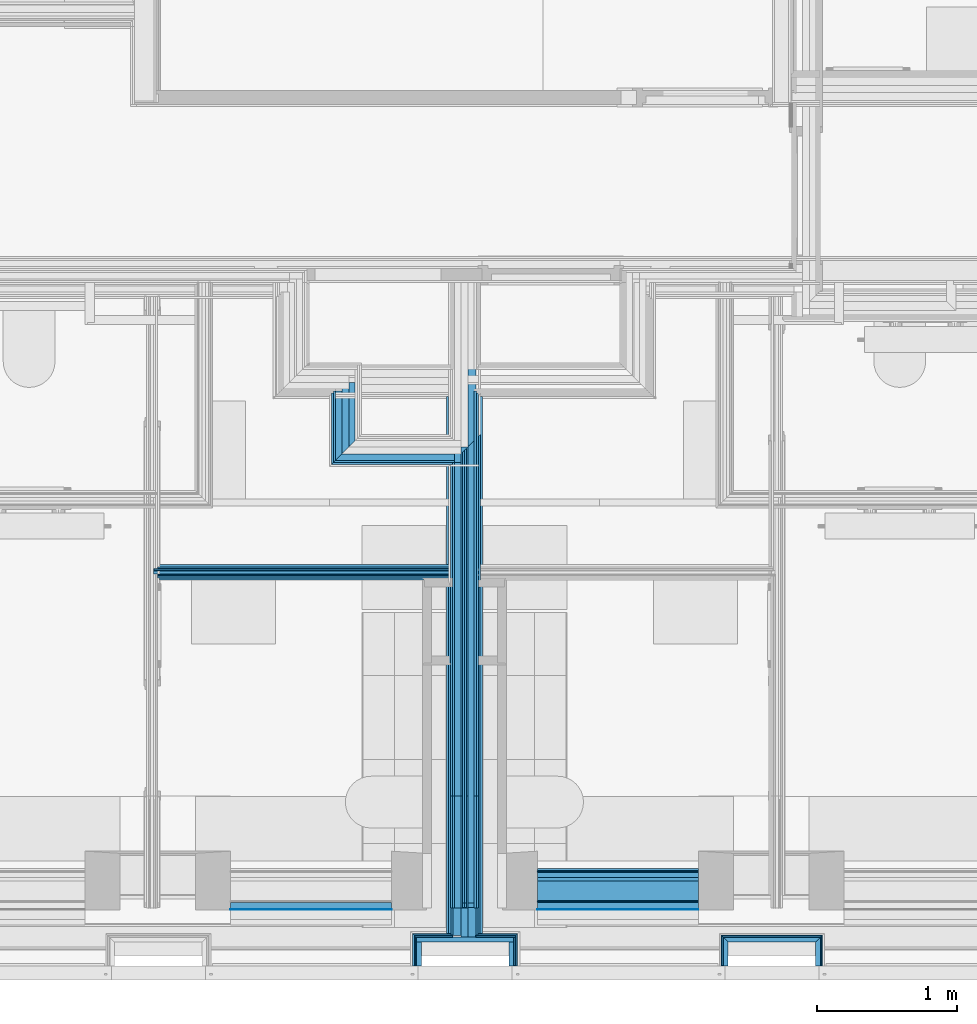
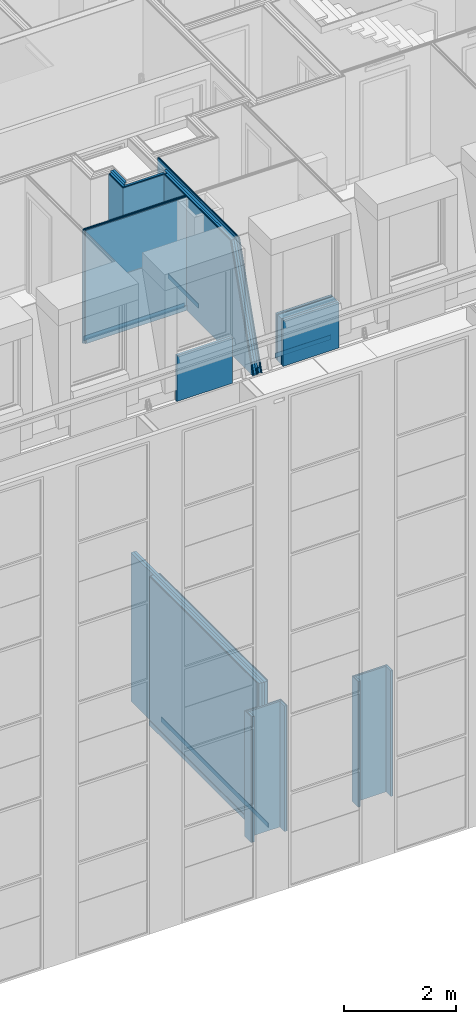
# One storey, part 20 of 169: 61 building element parts, 13 elements without a shape of their own.
"""IFC2X3 building model written with IfcOpenShell, lengths in metres."""

from ifc_helpers import new_model, entity, si_unit, converted_unit, derived_unit, money_unit, direction, frame, frame_2d, origin_with_axes, place, context, subcontext, project, spatial, polyline, rectangle, outline, extrude, clip, halfspace, material, type_object, element, aggregate, save


model = new_model("IFC2X3")

# Units and contexts
model_context = context("Model", 3, precision=1e-05, world=origin_with_axes(), true_north=direction((0.0, 1.0)))
body_context = subcontext(model_context, "Body", "Model", "MODEL_VIEW", scale=1.0)
ifc_project = project(units=[si_unit("LENGTHUNIT", "METRE"), si_unit("AREAUNIT", "SQUARE_METRE"), si_unit("VOLUMEUNIT", "CUBIC_METRE"), si_unit("ABSORBEDDOSEUNIT", "GRAY"), si_unit("AMOUNTOFSUBSTANCEUNIT", "MOLE"), si_unit("DOSEEQUIVALENTUNIT", "SIEVERT"), si_unit("ELECTRICCAPACITANCEUNIT", "FARAD"), si_unit("ELECTRICCHARGEUNIT", "COULOMB"), si_unit("ELECTRICCONDUCTANCEUNIT", "SIEMENS"), si_unit("ELECTRICCURRENTUNIT", "AMPERE"), si_unit("ELECTRICRESISTANCEUNIT", "OHM"), si_unit("ELECTRICVOLTAGEUNIT", "VOLT"), si_unit("ENERGYUNIT", "JOULE"), si_unit("FORCEUNIT", "NEWTON"), si_unit("FREQUENCYUNIT", "HERTZ"), si_unit("ILLUMINANCEUNIT", "LUX"), si_unit("INDUCTANCEUNIT", "HENRY"), si_unit("LUMINOUSFLUXUNIT", "LUMEN"), si_unit("LUMINOUSINTENSITYUNIT", "CANDELA"), si_unit("MAGNETICFLUXDENSITYUNIT", "TESLA"), si_unit("MAGNETICFLUXUNIT", "WEBER"), si_unit("MASSUNIT", "GRAM"), converted_unit("PLANEANGLEUNIT", "degree", entity("IfcReal", 0.0174532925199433), si_unit("PLANEANGLEUNIT", "RADIAN"), dimensions=[0, 0, 0, 0, 0, 0, 0]), si_unit("POWERUNIT", "WATT"), si_unit("PRESSUREUNIT", "PASCAL"), si_unit("RADIOACTIVITYUNIT", "BECQUEREL"), si_unit("SOLIDANGLEUNIT", "STERADIAN"), si_unit("THERMODYNAMICTEMPERATUREUNIT", "KELVIN"), si_unit("TIMEUNIT", "SECOND"), derived_unit("ACCELERATIONUNIT", [(si_unit("LENGTHUNIT", "METRE"), 1), (si_unit("TIMEUNIT", "SECOND"), -2)]), derived_unit("ANGULARVELOCITYUNIT", [(converted_unit("PLANEANGLEUNIT", "degree", entity("IfcReal", 0.0174532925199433), si_unit("PLANEANGLEUNIT", "RADIAN"), dimensions=[0, 0, 0, 0, 0, 0, 0]), 1), (si_unit("TIMEUNIT", "SECOND"), -1)]), derived_unit("CURVATUREUNIT", [(converted_unit("PLANEANGLEUNIT", "degree", entity("IfcReal", 0.0174532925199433), si_unit("PLANEANGLEUNIT", "RADIAN"), dimensions=[0, 0, 0, 0, 0, 0, 0]), 1), (si_unit("LENGTHUNIT", "METRE"), -1)]), derived_unit("DYNAMICVISCOSITYUNIT", [(si_unit("PRESSUREUNIT", "PASCAL"), 1), (si_unit("TIMEUNIT", "SECOND"), 1)]), derived_unit("HEATFLUXDENSITYUNIT", [(si_unit("POWERUNIT", "WATT"), 1), (si_unit("LENGTHUNIT", "METRE"), -2)]), derived_unit("HEATINGVALUEUNIT", [(si_unit("ENERGYUNIT", "JOULE"), 1), (si_unit("MASSUNIT", "GRAM"), -1)]), derived_unit("INTEGERCOUNTRATEUNIT", [(si_unit("TIMEUNIT", "SECOND"), -1)]), derived_unit("IONCONCENTRATIONUNIT", [(si_unit("MASSUNIT", "GRAM"), 1), (si_unit("VOLUMEUNIT", "CUBIC_METRE"), -1)]), derived_unit("ISOTHERMALMOISTURECAPACITYUNIT", [(si_unit("VOLUMEUNIT", "CUBIC_METRE"), 1), (si_unit("MASSUNIT", "GRAM"), -1)]), derived_unit("KINEMATICVISCOSITYUNIT", [(si_unit("AREAUNIT", "SQUARE_METRE"), 1), (si_unit("TIMEUNIT", "SECOND"), -1)]), derived_unit("LINEARFORCEUNIT", [(si_unit("FORCEUNIT", "NEWTON"), 1), (si_unit("LENGTHUNIT", "METRE"), -1)]), derived_unit("LINEARMOMENTUNIT", [(si_unit("FORCEUNIT", "NEWTON"), 1), (si_unit("LENGTHUNIT", "METRE"), -1)]), derived_unit("LINEARSTIFFNESSUNIT", [(si_unit("FORCEUNIT", "NEWTON"), 1), (si_unit("LENGTHUNIT", "METRE"), -1)]), derived_unit("LINEARVELOCITYUNIT", [(si_unit("LENGTHUNIT", "METRE"), 1), (si_unit("TIMEUNIT", "SECOND"), -1)]), derived_unit("LUMINOUSINTENSITYDISTRIBUTIONUNIT", [(si_unit("LUMINOUSINTENSITYUNIT", "CANDELA"), 1), (si_unit("LUMINOUSFLUXUNIT", "LUMEN"), -1)]), derived_unit("MASSDENSITYUNIT", [(si_unit("MASSUNIT", "GRAM"), 1), (si_unit("VOLUMEUNIT", "CUBIC_METRE"), -1)]), derived_unit("MASSFLOWRATEUNIT", [(si_unit("MASSUNIT", "GRAM"), 1), (si_unit("TIMEUNIT", "SECOND"), -1)]), derived_unit("MASSPERLENGTHUNIT", [(si_unit("MASSUNIT", "GRAM"), 1), (si_unit("LENGTHUNIT", "METRE"), -1)]), derived_unit("MODULUSOFELASTICITYUNIT", [(si_unit("FORCEUNIT", "NEWTON"), 1), (si_unit("AREAUNIT", "SQUARE_METRE"), -1)]), derived_unit("MODULUSOFLINEARSUBGRADEREACTIONUNIT", [(si_unit("FORCEUNIT", "NEWTON"), 1), (si_unit("LENGTHUNIT", "METRE"), -2)]), derived_unit("MODULUSOFROTATIONALSUBGRADEREACTIONUNIT", [(si_unit("FORCEUNIT", "NEWTON"), 1), (si_unit("LENGTHUNIT", "METRE"), 1)]), derived_unit("MODULUSOFSUBGRADEREACTIONUNIT", [(si_unit("FORCEUNIT", "NEWTON"), 1), (si_unit("VOLUMEUNIT", "CUBIC_METRE"), -1)]), derived_unit("MOISTUREDIFFUSIVITYUNIT", [(si_unit("VOLUMEUNIT", "CUBIC_METRE"), 1), (si_unit("TIMEUNIT", "SECOND"), -1)]), derived_unit("MOLECULARWEIGHTUNIT", [(si_unit("MASSUNIT", "GRAM"), 1), (si_unit("AMOUNTOFSUBSTANCEUNIT", "MOLE"), -1)]), derived_unit("PLANARFORCEUNIT", [(si_unit("FORCEUNIT", "NEWTON"), 1), (si_unit("LENGTHUNIT", "METRE"), -2)]), derived_unit("ROTATIONALFREQUENCYUNIT", [(si_unit("TIMEUNIT", "SECOND"), -1)]), derived_unit("ROTATIONALMASSUNIT", [(si_unit("MASSUNIT", "GRAM"), 1), (si_unit("LENGTHUNIT", "METRE"), 2)]), derived_unit("ROTATIONALSTIFFNESSUNIT", [(si_unit("FORCEUNIT", "NEWTON"), 1), (si_unit("LENGTHUNIT", "METRE"), 1), (converted_unit("PLANEANGLEUNIT", "degree", entity("IfcReal", 0.0174532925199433), si_unit("PLANEANGLEUNIT", "RADIAN"), dimensions=[0, 0, 0, 0, 0, 0, 0]), -1)]), derived_unit("SECTIONAREAINTEGRALUNIT", [(si_unit("LENGTHUNIT", "METRE"), 5)]), derived_unit("SECTIONMODULUSUNIT", [(si_unit("LENGTHUNIT", "METRE"), 3)]), derived_unit("SHEARMODULUSUNIT", [(si_unit("FORCEUNIT", "NEWTON"), 1), (si_unit("AREAUNIT", "SQUARE_METRE"), -1)]), derived_unit("SOUNDPOWERUNIT", [(si_unit("ENERGYUNIT", "JOULE"), 1), (si_unit("TIMEUNIT", "SECOND"), -1)]), derived_unit("SPECIFICHEATCAPACITYUNIT", [(si_unit("FORCEUNIT", "NEWTON"), 1), (si_unit("MASSUNIT", "GRAM"), -1), (si_unit("THERMODYNAMICTEMPERATUREUNIT", "KELVIN"), -1)]), derived_unit("TEMPERATUREGRADIENTUNIT", [(si_unit("THERMODYNAMICTEMPERATUREUNIT", "KELVIN"), 1), (si_unit("LENGTHUNIT", "METRE"), -1)]), derived_unit("THERMALADMITTANCEUNIT", [(si_unit("POWERUNIT", "WATT"), 1), (si_unit("AREAUNIT", "SQUARE_METRE"), -1), (si_unit("THERMODYNAMICTEMPERATUREUNIT", "KELVIN"), -1)]), derived_unit("THERMALCONDUCTANCEUNIT", [(si_unit("POWERUNIT", "WATT"), 1), (si_unit("LENGTHUNIT", "METRE"), -1), (si_unit("THERMODYNAMICTEMPERATUREUNIT", "KELVIN"), -1)]), derived_unit("THERMALEXPANSIONCOEFFICIENTUNIT", [(si_unit("THERMODYNAMICTEMPERATUREUNIT", "KELVIN"), -1)]), derived_unit("THERMALRESISTANCEUNIT", [(si_unit("AREAUNIT", "SQUARE_METRE"), 1), (si_unit("POWERUNIT", "WATT"), -1)]), derived_unit("THERMALTRANSMITTANCEUNIT", [(si_unit("POWERUNIT", "WATT"), 1), (si_unit("AREAUNIT", "SQUARE_METRE"), -1), (si_unit("THERMODYNAMICTEMPERATUREUNIT", "KELVIN"), -1)]), derived_unit("TORQUEUNIT", [(si_unit("FORCEUNIT", "NEWTON"), 1), (si_unit("LENGTHUNIT", "METRE"), 1)]), derived_unit("VAPORPERMEABILITYUNIT", [(si_unit("MASSUNIT", "GRAM"), 1), (si_unit("TIMEUNIT", "SECOND"), -1)]), derived_unit("VOLUMETRICFLOWRATEUNIT", [(si_unit("VOLUMEUNIT", "CUBIC_METRE"), 1), (si_unit("TIMEUNIT", "SECOND"), -1)]), derived_unit("WARPINGCONSTANTUNIT", [(si_unit("LENGTHUNIT", "METRE"), 6)]), derived_unit("WARPINGMOMENTUNIT", [(si_unit("FORCEUNIT", "NEWTON"), 1), (si_unit("LENGTHUNIT", "METRE"), 2)]), money_unit("GBP")], contexts=[model_context])

# Site, building, storey
site_placement = place(None, origin_with_axes())
site = spatial("IfcSite", under=ifc_project, at=site_placement, Name="Site", CompositionType="ELEMENT")
building_placement = place(site_placement, origin_with_axes())
building = spatial("IfcBuilding", under=site, at=building_placement, Name="Building01", CompositionType="ELEMENT")
storey_placement = place(building_placement, frame((0.0, 0.0, 5.15), z_axis=(0.0, 0.0, 1.0), x_axis=(1.0, 0.0, 0.0)))
storey = spatial("IfcBuildingStorey", under=building, at=storey_placement, Name="1F", CompositionType="ELEMENT", Elevation=5.15)

# Wall, building element parts
wall_type_1 = type_object("IfcWallType", Name="SHE_A-Walls_Type06d_ExternalWallInsulation_48mm", PredefinedType="NOTDEFINED")
wall_1_placement = place(storey_placement, frame((15.383, 0.1, 0.0), z_axis=(0.0, 0.0, 1.0), x_axis=(0.0, 1.0, 0.0)))
wall_1 = element("IfcWall", 1, at=wall_1_placement, inside=storey, type_object=wall_type_1, Name="6D", ObjectType="SHE_A-Walls_Type06d_ExternalWallInsulation_48mm")
ifc_material_1 = material(Name="A_BSUK_Insulation")
placement_1 = place(wall_1_placement, origin_with_axes())
building_element_part_1 = element("IfcBuildingElementPart", 2, at=placement_1, material=ifc_material_1, Name="1", context=body_context, shape_type="SweptSolid", body=[
    extrude(outline(polyline([(0.206, 0.036), (0.0, 0.036), (0.0, 0.0), (0.17, 0.0), (0.206, 0.036)])), origin_with_axes(), (0.0, 0.0, 1.0), 2.74),
])
ifc_material_2 = material(Name="A_BSUK_WallInternal_Finishes_Plasterboard")
building_element_part_2 = element("IfcBuildingElementPart", 3, at=placement_1, material=ifc_material_2, Name="2", context=body_context, shape_type="SweptSolid", body=[
    extrude(outline(polyline([(0.218, 0.048), (0.0, 0.048), (0.0, 0.035), (0.205, 0.035), (0.218, 0.048)])), origin_with_axes(), (0.0, 0.0, 1.0), 2.74),
])
aggregate(wall_1, [building_element_part_1, building_element_part_2])

wall_2_placement = place(storey_placement, frame((15.383, 0.27, 0.0), z_axis=(0.0, 0.0, 1.0), x_axis=(1.0, 0.0, 0.0)))
wall_2 = element("IfcWall", 4, at=wall_2_placement, inside=storey, type_object=wall_type_1, Name="6D", ObjectType="SHE_A-Walls_Type06d_ExternalWallInsulation_48mm")
placement_2 = place(wall_2_placement, origin_with_axes())
building_element_part_3 = element("IfcBuildingElementPart", 5, at=placement_2, material=ifc_material_1, Name="1", context=body_context, shape_type="SweptSolid", body=[
    extrude(outline(polyline([(0.66, 0.036), (-0.036, 0.036), (0.0, 0.0), (0.624, 0.0), (0.66, 0.036)])), origin_with_axes(), (0.0, 0.0, 1.0), 2.74),
])
building_element_part_4 = element("IfcBuildingElementPart", 6, at=placement_2, material=ifc_material_2, Name="2", context=body_context, shape_type="SweptSolid", body=[
    extrude(outline(polyline([(0.672, 0.048), (-0.048, 0.048), (-0.035, 0.035), (0.659, 0.035), (0.672, 0.048)])), origin_with_axes(), (0.0, 0.0, 1.0), 2.74),
])
aggregate(wall_2, [building_element_part_3, building_element_part_4])

wall_3_placement = place(storey_placement, frame((16.007, 0.27, 0.0), z_axis=(0.0, 0.0, 1.0), x_axis=(0.0, -1.0, 0.0)))
wall_3 = element("IfcWall", 7, at=wall_3_placement, inside=storey, type_object=wall_type_1, Name="6D", ObjectType="SHE_A-Walls_Type06d_ExternalWallInsulation_48mm")
placement_3 = place(wall_3_placement, origin_with_axes())
building_element_part_5 = element("IfcBuildingElementPart", 8, at=placement_3, material=ifc_material_1, Name="1", context=body_context, shape_type="SweptSolid", body=[
    extrude(outline(polyline([(-0.036, 0.036), (0.0, 0.0), (0.17, 0.0), (0.17, 0.036), (-0.036, 0.036)])), origin_with_axes(), (0.0, 0.0, 1.0), 2.74),
])
building_element_part_6 = element("IfcBuildingElementPart", 9, at=placement_3, material=ifc_material_2, Name="2", context=body_context, shape_type="SweptSolid", body=[
    extrude(outline(polyline([(-0.048, 0.048), (-0.035, 0.035), (0.17, 0.035), (0.17, 0.048), (-0.048, 0.048)])), origin_with_axes(), (0.0, 0.0, 1.0), 2.74),
])
aggregate(wall_3, [building_element_part_5, building_element_part_6])

wall_type_2 = type_object("IfcWallType", Name="SHE_A-Walls_Type01c_Partywall_225mm_twin_tall", PredefinedType="NOTDEFINED")
wall_4_placement = place(storey_placement, frame((13.5005, 4.995, 0.0), z_axis=(0.0, 0.0, 1.0), x_axis=(0.0, -1.0, 0.0)))
wall_4 = element("IfcWall", 10, at=wall_4_placement, inside=storey, type_object=wall_type_2, Name="1C", ObjectType="SHE_A-Walls_Type01c_Partywall_225mm_twin_tall")
ifc_material_3 = material(Name="A_BSUK_Walls_Timber")
placement_4 = place(wall_4_placement, origin_with_axes())
building_element_part_7 = element("IfcBuildingElementPart", 11, at=placement_4, material=ifc_material_3, Name="1", context=body_context, shape_type="SweptSolid", body=[
    extrude(rectangle(XDim=3.831428, YDim=0.015, at=frame_2d((2.746286, -0.1205), x_axis=(-1.0, 0.0))), frame((0.0, 0.0, 0.015), z_axis=(0.0, 0.0, 1.0), x_axis=(1.0, 0.0, 0.0)), (0.0, 0.0, 1.0), 0.1),
])
building_element_part_8 = element("IfcBuildingElementPart", 12, at=placement_4, material=ifc_material_2, Name="3", context=body_context, shape_type="SweptSolid", body=[
    extrude(rectangle(XDim=3.846428, YDim=0.015, at=frame_2d((2.738786, -0.1055), x_axis=(-1.0, 0.0))), origin_with_axes(), (0.0, 0.0, 1.0), 3.24),
])
building_element_part_9 = element("IfcBuildingElementPart", 13, at=placement_4, material=ifc_material_2, Name="5", context=body_context, shape_type="SweptSolid", body=[
    extrude(rectangle(XDim=3.876428, YDim=0.015, at=frame_2d((2.738786, -0.0905), x_axis=(-1.0, 0.0))), origin_with_axes(), (0.0, 0.0, 1.0), 3.24),
])
ifc_material_4 = material(Name="Air Cavity")
building_element_part_10 = element("IfcBuildingElementPart", 14, at=placement_4, material=ifc_material_4, Name="6", context=body_context, shape_type="SweptSolid", body=[
    extrude(rectangle(XDim=3.876428, YDim=0.058, at=frame_2d((2.738786, -0.054), x_axis=(-1.0, 0.0))), origin_with_axes(), (0.0, 0.0, 1.0), 3.24),
])
building_element_part_11 = element("IfcBuildingElementPart", 15, at=placement_4, material=ifc_material_1, Name="7", context=body_context, shape_type="SweptSolid", body=[
    extrude(rectangle(XDim=4.689, YDim=0.05, at=frame_2d((2.3445, 0.0), x_axis=(-1.0, 0.0))), origin_with_axes(), (0.0, 0.0, 1.0), 3.24),
])
building_element_part_12 = element("IfcBuildingElementPart", 16, at=placement_4, material=ifc_material_4, Name="8", context=body_context, shape_type="SweptSolid", body=[
    extrude(rectangle(XDim=4.689, YDim=0.057, at=frame_2d((2.3445, 0.0535), x_axis=(-1.0, 0.0))), origin_with_axes(), (0.0, 0.0, 1.0), 3.24),
])
building_element_part_13 = element("IfcBuildingElementPart", 17, at=placement_4, material=ifc_material_2, Name="10", context=body_context, shape_type="SweptSolid", body=[
    extrude(rectangle(XDim=3.876428, YDim=0.015, at=frame_2d((2.738786, 0.0895), x_axis=(-1.0, 0.0))), origin_with_axes(), (0.0, 0.0, 1.0), 3.24),
])
building_element_part_14 = element("IfcBuildingElementPart", 18, at=placement_4, material=ifc_material_2, Name="12", context=body_context, shape_type="SweptSolid", body=[
    extrude(rectangle(XDim=3.846428, YDim=0.015, at=frame_2d((2.738786, 0.1045), x_axis=(-1.0, 0.0))), origin_with_axes(), (0.0, 0.0, 1.0), 3.24),
])
building_element_part_15 = element("IfcBuildingElementPart", 19, at=placement_4, material=ifc_material_3, Name="13", context=body_context, shape_type="SweptSolid", body=[
    extrude(rectangle(XDim=3.831428, YDim=0.015, at=frame_2d((2.746286, 0.1195), x_axis=(-1.0, 0.0))), frame((0.0, 0.0, 0.015), z_axis=(0.0, 0.0, 1.0), x_axis=(1.0, 0.0, 0.0)), (0.0, 0.0, 1.0), 0.1),
])
aggregate(wall_4, [building_element_part_7, building_element_part_8, building_element_part_9, building_element_part_10, building_element_part_11, building_element_part_12, building_element_part_13, building_element_part_14, building_element_part_15])

wall_type_3 = type_object("IfcWallType", Name="SHE_A-Walls_Type06f_ExternalWallInsulation_48+15mm", PredefinedType="NOTDEFINED")
wall_5_placement = place(storey_placement, frame((13.157, 0.27, 0.0), z_axis=(0.0, 0.0, 1.0), x_axis=(1.0, 0.0, 0.0)))
wall_5 = element("IfcWall", 20, at=wall_5_placement, inside=storey, type_object=wall_type_3, Name="6F", ObjectType="SHE_A-Walls_Type06f_ExternalWallInsulation_48+15mm")
placement_5 = place(wall_5_placement, origin_with_axes())
building_element_part_16 = element("IfcBuildingElementPart", 21, at=placement_5, material=ifc_material_1, Name="1", context=body_context, shape_type="SweptSolid", body=[
    extrude(rectangle(XDim=0.696, YDim=0.036, at=frame_2d((0.348, 0.018), x_axis=(-1.0, 0.0))), origin_with_axes(), (0.0, 0.0, 1.0), 2.74),
])
building_element_part_17 = element("IfcBuildingElementPart", 22, at=placement_5, material=ifc_material_2, Name="2", context=body_context, shape_type="SweptSolid", body=[
    extrude(rectangle(XDim=0.2725, YDim=0.012, at=frame_2d((0.12425, 0.042), x_axis=(-1.0, 0.0))), origin_with_axes(), (0.0, 0.0, 1.0), 2.74),
])
building_element_part_18 = element("IfcBuildingElementPart", 23, at=placement_5, material=ifc_material_2, Name="3", context=body_context, shape_type="SweptSolid", body=[
    extrude(rectangle(XDim=0.2825, YDim=0.012, at=frame_2d((0.56675, 0.042), x_axis=(-1.0, 0.0))), origin_with_axes(), (0.0, 0.0, 1.0), 2.74),
])
building_element_part_19 = element("IfcBuildingElementPart", 24, at=placement_5, material=ifc_material_2, Name="4", context=body_context, shape_type="SweptSolid", body=[
    extrude(outline(polyline([(0.723, 0.063), (0.4405, 0.063), (0.4405, 0.048), (0.708, 0.048), (0.723, 0.063)])), origin_with_axes(), (0.0, 0.0, 1.0), 2.74),
])
building_element_part_20 = element("IfcBuildingElementPart", 25, at=placement_5, material=ifc_material_2, Name="5", context=body_context, shape_type="SweptSolid", body=[
    extrude(outline(polyline([(0.2455, 0.063), (-0.027, 0.063), (-0.012, 0.048), (0.2455, 0.048), (0.2455, 0.063)])), origin_with_axes(), (0.0, 0.0, 1.0), 2.74),
])
aggregate(wall_5, [building_element_part_16, building_element_part_17, building_element_part_18, building_element_part_19, building_element_part_20])

wall_6_placement = place(storey_placement, frame((13.817, 0.27, 0.0), z_axis=(0.0, 0.0, 1.0), x_axis=(0.0, -1.0, 0.0)))
wall_6 = element("IfcWall", 26, at=wall_6_placement, inside=storey, type_object=wall_type_3, Name="6F", ObjectType="SHE_A-Walls_Type06f_ExternalWallInsulation_48+15mm")
placement_6 = place(wall_6_placement, origin_with_axes())
building_element_part_21 = element("IfcBuildingElementPart", 27, at=placement_6, material=ifc_material_1, Name="1", context=body_context, shape_type="SweptSolid", body=[
    extrude(rectangle(XDim=0.036, YDim=0.17, at=frame_2d((0.085, 0.018), x_axis=(0.0, -1.0))), origin_with_axes(), (0.0, 0.0, 1.0), 2.74),
])
building_element_part_22 = element("IfcBuildingElementPart", 28, at=placement_6, material=ifc_material_2, Name="2", context=body_context, shape_type="SweptSolid", body=[
    extrude(rectangle(XDim=0.012, YDim=0.206, at=frame_2d((0.067, 0.042), x_axis=(0.0, -1.0))), origin_with_axes(), (0.0, 0.0, 1.0), 2.74),
])
building_element_part_23 = element("IfcBuildingElementPart", 29, at=placement_6, material=ifc_material_2, Name="3", context=body_context, shape_type="SweptSolid", body=[
    extrude(outline(polyline([(-0.063, 0.063), (-0.048, 0.048), (0.17, 0.048), (0.17, 0.063), (-0.063, 0.063)])), origin_with_axes(), (0.0, 0.0, 1.0), 2.74),
])
aggregate(wall_6, [building_element_part_21, building_element_part_22, building_element_part_23])

wall_7_placement = place(storey_placement, frame((13.193, 0.1, 0.0), z_axis=(0.0, 0.0, 1.0), x_axis=(0.0, 1.0, 0.0)))
wall_7 = element("IfcWall", 30, at=wall_7_placement, inside=storey, type_object=wall_type_3, Name="6F", ObjectType="SHE_A-Walls_Type06f_ExternalWallInsulation_48+15mm")
placement_7 = place(wall_7_placement, origin_with_axes())
building_element_part_24 = element("IfcBuildingElementPart", 31, at=placement_7, material=ifc_material_1, Name="1", context=body_context, shape_type="SweptSolid", body=[
    extrude(rectangle(XDim=0.17, YDim=0.036, at=frame_2d((0.085, 0.018), x_axis=(-1.0, 0.0))), origin_with_axes(), (0.0, 0.0, 1.0), 2.74),
])
building_element_part_25 = element("IfcBuildingElementPart", 32, at=placement_7, material=ifc_material_2, Name="2", context=body_context, shape_type="SweptSolid", body=[
    extrude(rectangle(XDim=0.206, YDim=0.012, at=frame_2d((0.103, 0.042), x_axis=(-1.0, 0.0))), origin_with_axes(), (0.0, 0.0, 1.0), 2.74),
])
building_element_part_26 = element("IfcBuildingElementPart", 33, at=placement_7, material=ifc_material_2, Name="3", context=body_context, shape_type="SweptSolid", body=[
    extrude(outline(polyline([(0.233, 0.063), (0.0, 0.063), (0.0, 0.048), (0.218, 0.048), (0.233, 0.063)])), origin_with_axes(), (0.0, 0.0, 1.0), 2.74),
])
aggregate(wall_7, [building_element_part_24, building_element_part_25, building_element_part_26])

wall_type_4 = type_object("IfcWallType", Name="SHE_A-Walls_Type05b_Partition_80mm", PredefinedType="NOTDEFINED")
wall_8_placement = place(storey_placement, frame((11.282, 2.896761, 9.83), z_axis=(0.0, 0.0, 1.0), x_axis=(1.0, 0.0, 0.0)))
wall_8 = element("IfcWall", 34, at=wall_8_placement, inside=storey, type_object=wall_type_4, Name="5B", ObjectType="SHE_A-Walls_Type05b_Partition_80mm")
placement_8 = place(wall_8_placement, origin_with_axes())
building_element_part_27 = element("IfcBuildingElementPart", 35, at=placement_8, material=ifc_material_3, Name="1", context=body_context, shape_type="SweptSolid", body=[
    extrude(rectangle(XDim=2.075, YDim=0.015, at=frame_2d((1.0805, -0.0345), x_axis=(-1.0, 0.0))), frame((0.0, 0.0, 0.015), z_axis=(0.0, 0.0, 1.0), x_axis=(1.0, 0.0, 0.0)), (0.0, 0.0, 1.0), 0.1),
])
building_element_part_28 = element("IfcBuildingElementPart", 36, at=placement_8, material=ifc_material_2, Name="2", context=body_context, shape_type="SweptSolid", body=[
    extrude(rectangle(XDim=2.09, YDim=0.015, at=frame_2d((1.073, -0.0195), x_axis=(-1.0, 0.0))), origin_with_axes(), (0.0, 0.0, 1.0), 2.468),
])
building_element_part_29 = element("IfcBuildingElementPart", 37, at=placement_8, material=ifc_material_4, Name="3", context=body_context, shape_type="SweptSolid", body=[
    extrude(rectangle(XDim=2.09, YDim=0.012, at=frame_2d((1.073, -0.006), x_axis=(-1.0, 0.0))), origin_with_axes(), (0.0, 0.0, 1.0), 2.468),
])
building_element_part_30 = element("IfcBuildingElementPart", 38, at=placement_8, material=ifc_material_1, Name="4", context=body_context, shape_type="SweptSolid", body=[
    extrude(rectangle(XDim=2.118, YDim=0.025, at=frame_2d((1.059, 0.0125), x_axis=(-1.0, 0.0))), origin_with_axes(), (0.0, 0.0, 1.0), 2.468),
])
building_element_part_31 = element("IfcBuildingElementPart", 39, at=placement_8, material=ifc_material_4, Name="5", context=body_context, shape_type="SweptSolid", body=[
    extrude(rectangle(XDim=2.118, YDim=0.013, at=frame_2d((1.059, 0.0315), x_axis=(-1.0, 0.0))), origin_with_axes(), (0.0, 0.0, 1.0), 2.468),
])
building_element_part_32 = element("IfcBuildingElementPart", 40, at=placement_8, material=ifc_material_2, Name="6", context=body_context, shape_type="SweptSolid", body=[
    extrude(rectangle(XDim=2.09, YDim=0.015, at=frame_2d((1.073, 0.0455), x_axis=(-1.0, 0.0))), origin_with_axes(), (0.0, 0.0, 1.0), 2.468),
])
building_element_part_33 = element("IfcBuildingElementPart", 41, at=placement_8, material=ifc_material_3, Name="7", context=body_context, shape_type="SweptSolid", body=[
    extrude(rectangle(XDim=2.075, YDim=0.015, at=frame_2d((1.0805, 0.0605), x_axis=(-1.0, 0.0))), frame((0.0, 0.0, 0.015), z_axis=(0.0, 0.0, 1.0), x_axis=(1.0, 0.0, 0.0)), (0.0, 0.0, 1.0), 0.1),
])
aggregate(wall_8, [building_element_part_27, building_element_part_28, building_element_part_29, building_element_part_30, building_element_part_31, building_element_part_32, building_element_part_33])

wall_type_5 = type_object("IfcWallType", Name="SHE_A-Walls_Type01d_Partywall_200mm_twin", PredefinedType="NOTDEFINED")
wall_9_placement = place(storey_placement, frame((13.475, 3.805, 9.83), z_axis=(0.0, 0.0, 1.0), x_axis=(0.0, -1.0, 0.0)))
wall_9 = element("IfcWall", 42, at=wall_9_placement, inside=storey, type_object=wall_type_5, Name="1D", ObjectType="SHE_A-Walls_Type01d_Partywall_200mm_twin")
placement_9 = place(wall_9_placement, origin_with_axes())
building_element_part_34 = element("IfcBuildingElementPart", 43, at=placement_9, material=ifc_material_2, Name="2", context=body_context, shape_type="Clipping", body=[
    clip(extrude(rectangle(XDim=3.166658, YDim=0.015, at=frame_2d((1.708329, -0.0675), x_axis=(-1.0, 0.0))), origin_with_axes(), (0.0, 0.0, 1.0), 2.468), halfspace(frame((2.977333, 0.0, 0.967394), z_axis=(-0.95105652, 0.0, -0.30901699), x_axis=(0.0, -1.0, 0.0)), True)),
])
building_element_part_35 = element("IfcBuildingElementPart", 44, at=placement_9, material=ifc_material_2, Name="3", context=body_context, shape_type="Clipping", body=[
    clip(extrude(rectangle(XDim=3.181658, YDim=0.015, at=frame_2d((1.700829, -0.0525), x_axis=(-1.0, 0.0))), origin_with_axes(), (0.0, 0.0, 1.0), 2.468), halfspace(frame((2.977333, 0.0, 0.967394), z_axis=(-0.95105652, 0.0, -0.30901699), x_axis=(0.0, -1.0, 0.0)), True)),
])
building_element_part_36 = element("IfcBuildingElementPart", 45, at=placement_9, material=ifc_material_4, Name="4", context=body_context, shape_type="Clipping", body=[
    clip(extrude(rectangle(XDim=3.181658, YDim=0.045, at=frame_2d((1.700829, -0.0225), x_axis=(-1.0, 0.0))), origin_with_axes(), (0.0, 0.0, 1.0), 2.468), halfspace(frame((2.977333, 0.0, 0.967394), z_axis=(-0.95105652, 0.0, -0.30901699), x_axis=(0.0, -1.0, 0.0)), True)),
])
building_element_part_37 = element("IfcBuildingElementPart", 46, at=placement_9, material=ifc_material_1, Name="5", context=body_context, shape_type="Clipping", body=[
    clip(extrude(rectangle(XDim=3.291658, YDim=0.05, at=frame_2d((1.645829, 0.025), x_axis=(-1.0, 0.0))), origin_with_axes(), (0.0, 0.0, 1.0), 2.468), halfspace(frame((2.977333, 0.0, 0.967394), z_axis=(-0.95105652, 0.0, -0.30901699), x_axis=(0.0, -1.0, 0.0)), True)),
])
building_element_part_38 = element("IfcBuildingElementPart", 47, at=placement_9, material=ifc_material_3, Name="6", context=body_context, shape_type="Clipping", body=[
    clip(extrude(outline(polyline([(3.286784, 0.025), (0.025, 0.025), (0.04, 0.01), (3.286784, 0.01), (3.286784, 0.025)])), frame((0.0, 0.0, 0.015), z_axis=(0.0, 0.0, 1.0), x_axis=(1.0, 0.0, 0.0)), (0.0, 0.0, 1.0), 0.1), halfspace(frame((2.977333, 0.0, 0.967394), z_axis=(-0.95105652, 0.0, -0.30901699), x_axis=(0.0, -1.0, 0.0)), True)),
])
building_element_part_39 = element("IfcBuildingElementPart", 48, at=placement_9, material=ifc_material_3, Name="7", context=body_context, shape_type="Clipping", body=[
    clip(extrude(outline(polyline([(3.286784, 0.04), (0.01, 0.04), (0.025, 0.025), (3.286784, 0.025), (3.286784, 0.04)])), frame((0.0, 0.0, 0.015), z_axis=(0.0, 0.0, 1.0), x_axis=(1.0, 0.0, 0.0)), (0.0, 0.0, 1.0), 0.1), halfspace(frame((2.977333, 0.0, 0.967394), z_axis=(-0.95105652, 0.0, -0.30901699), x_axis=(0.0, -1.0, 0.0)), True)),
])
building_element_part_40 = element("IfcBuildingElementPart", 49, at=placement_9, material=ifc_material_4, Name="8", context=body_context, shape_type="Clipping", body=[
    clip(extrude(outline(polyline([(3.286784, 0.095), (-0.045, 0.095), (0.01, 0.04), (3.286784, 0.04), (3.286784, 0.095)])), frame((0.0, 0.0, 0.015), z_axis=(0.0, 0.0, 1.0), x_axis=(1.0, 0.0, 0.0)), (0.0, 0.0, 1.0), 0.1), halfspace(frame((2.977333, 0.0, 0.967394), z_axis=(-0.95105652, 0.0, -0.30901699), x_axis=(0.0, -1.0, 0.0)), True)),
])
building_element_part_41 = element("IfcBuildingElementPart", 50, at=placement_9, material=ifc_material_2, Name="9", context=body_context, shape_type="Clipping", body=[
    clip(extrude(rectangle(XDim=3.691086, YDim=0.015, at=frame_2d((1.446115, 0.1025), x_axis=(-1.0, 0.0))), origin_with_axes(), (0.0, 0.0, 1.0), 2.468), halfspace(frame((2.977333, 0.0, 0.967394), z_axis=(-0.95105652, 0.0, -0.30901699), x_axis=(0.0, -1.0, 0.0)), True)),
])
building_element_part_42 = element("IfcBuildingElementPart", 51, at=placement_9, material=ifc_material_2, Name="10", context=body_context, shape_type="Clipping", body=[
    clip(extrude(rectangle(XDim=3.676086, YDim=0.015, at=frame_2d((1.453615, 0.1175), x_axis=(-1.0, 0.0))), origin_with_axes(), (0.0, 0.0, 1.0), 2.468), halfspace(frame((2.977333, 0.0, 0.967394), z_axis=(-0.95105652, 0.0, -0.30901699), x_axis=(0.0, -1.0, 0.0)), True)),
])
building_element_part_43 = element("IfcBuildingElementPart", 52, at=placement_9, material=ifc_material_3, Name="11", context=body_context, shape_type="SweptSolid", body=[
    extrude(outline(polyline([(1.000239, 0.14), (-0.09, 0.14), (-0.075, 0.125), (1.000239, 0.125), (1.000239, 0.14)])), frame((0.0, 0.0, 0.015), z_axis=(0.0, 0.0, 1.0), x_axis=(1.0, 0.0, 0.0)), (0.0, 0.0, 1.0), 0.1),
])
aggregate(wall_9, [building_element_part_34, building_element_part_35, building_element_part_36, building_element_part_37, building_element_part_38, building_element_part_39, building_element_part_40, building_element_part_41, building_element_part_42, building_element_part_43])

wall_10_placement = place(storey_placement, frame((12.65, 3.78, 9.83), z_axis=(0.0, 0.0, 1.0), x_axis=(1.0, 0.0, 0.0)))
wall_10 = element("IfcWall", 53, at=wall_10_placement, inside=storey, type_object=wall_type_5, Name="1D", ObjectType="SHE_A-Walls_Type01d_Partywall_200mm_twin")
placement_10 = place(wall_10_placement, origin_with_axes())
building_element_part_44 = element("IfcBuildingElementPart", 54, at=placement_10, material=ifc_material_2, Name="2", context=body_context, shape_type="SweptSolid", body=[
    extrude(outline(polyline([(0.765, -0.085), (-0.085, -0.085), (-0.1, -0.1), (0.765, -0.1), (0.765, -0.085)])), origin_with_axes(), (0.0, 0.0, 1.0), 2.468),
])
building_element_part_45 = element("IfcBuildingElementPart", 55, at=placement_10, material=ifc_material_2, Name="3", context=body_context, shape_type="SweptSolid", body=[
    extrude(outline(polyline([(0.78, -0.07), (-0.07, -0.07), (-0.085, -0.085), (0.78, -0.085), (0.78, -0.07)])), origin_with_axes(), (0.0, 0.0, 1.0), 2.468),
])
building_element_part_46 = element("IfcBuildingElementPart", 56, at=placement_10, material=ifc_material_4, Name="4", context=body_context, shape_type="SweptSolid", body=[
    extrude(outline(polyline([(0.78, -0.025), (-0.025, -0.025), (-0.07, -0.07), (0.78, -0.07), (0.78, -0.025)])), origin_with_axes(), (0.0, 0.0, 1.0), 2.468),
])
aggregate(wall_10, [building_element_part_44, building_element_part_45, building_element_part_46])

wall_11_placement = place(storey_placement, frame((12.65, 4.264428, 9.83), z_axis=(0.0, 0.0, 1.0), x_axis=(0.0, -1.0, 0.0)))
wall_11 = element("IfcWall", 57, at=wall_11_placement, inside=storey, type_object=wall_type_5, Name="1D", ObjectType="SHE_A-Walls_Type01d_Partywall_200mm_twin")
placement_11 = place(wall_11_placement, origin_with_axes())
building_element_part_47 = element("IfcBuildingElementPart", 58, at=placement_11, material=ifc_material_2, Name="2", context=body_context, shape_type="SweptSolid", body=[
    extrude(outline(polyline([(0.569428, -0.085), (0.075, -0.085), (0.075, -0.1), (0.584428, -0.1), (0.569428, -0.085)])), origin_with_axes(), (0.0, 0.0, 1.0), 2.468),
])
building_element_part_48 = element("IfcBuildingElementPart", 59, at=placement_11, material=ifc_material_2, Name="3", context=body_context, shape_type="SweptSolid", body=[
    extrude(outline(polyline([(0.554428, -0.07), (0.06, -0.07), (0.06, -0.085), (0.569428, -0.085), (0.554428, -0.07)])), origin_with_axes(), (0.0, 0.0, 1.0), 2.468),
])
building_element_part_49 = element("IfcBuildingElementPart", 60, at=placement_11, material=ifc_material_4, Name="4", context=body_context, shape_type="SweptSolid", body=[
    extrude(outline(polyline([(0.509428, -0.025), (0.06, -0.025), (0.06, -0.07), (0.554428, -0.07), (0.509428, -0.025)])), origin_with_axes(), (0.0, 0.0, 1.0), 2.468),
])
building_element_part_50 = element("IfcBuildingElementPart", 61, at=placement_11, material=ifc_material_1, Name="5", context=body_context, shape_type="SweptSolid", body=[
    extrude(outline(polyline([(0.459428, 0.025), (0.0, 0.025), (0.0, -0.025), (0.509428, -0.025), (0.459428, 0.025)])), origin_with_axes(), (0.0, 0.0, 1.0), 2.468),
])
building_element_part_51 = element("IfcBuildingElementPart", 62, at=placement_11, material=ifc_material_4, Name="6", context=body_context, shape_type="SweptSolid", body=[
    extrude(outline(polyline([(0.414428, 0.07), (0.0, 0.07), (0.0, 0.025), (0.459428, 0.025), (0.414428, 0.07)])), origin_with_axes(), (0.0, 0.0, 1.0), 2.468),
])
aggregate(wall_11, [building_element_part_47, building_element_part_48, building_element_part_49, building_element_part_50, building_element_part_51])

wall_type_6 = type_object("IfcWallType", Name="SHE_A-Walls_Type06e_ExternalWallPenthouse_280mm", PredefinedType="NOTDEFINED")
wall_12_placement = place(storey_placement, frame((15.169976, 0.565, 9.83), z_axis=(0.0, 0.0, 1.0), x_axis=(-1.0, 0.0, 0.0)))
wall_12 = element("IfcWall", 63, at=wall_12_placement, inside=storey, type_object=wall_type_6, Name="6E", ObjectType="SHE_A-Walls_Type06e_ExternalWallPenthouse_280mm")
placement_12 = place(wall_12_placement, origin_with_axes())
building_element_part_52 = element("IfcBuildingElementPart", 64, at=placement_12, material=ifc_material_3, Name="1", context=body_context, shape_type="SweptSolid", body=[
    extrude(rectangle(XDim=1.149951, YDim=0.015, at=frame_2d((0.574976, -0.2225), x_axis=(-1.0, 0.0))), frame((0.0, 0.0, 0.015), z_axis=(0.0, 0.0, 1.0), x_axis=(1.0, 0.0, 0.0)), (0.0, 0.0, 1.0), 0.1),
])
building_element_part_53 = element("IfcBuildingElementPart", 65, at=placement_12, material=ifc_material_2, Name="2", context=body_context, shape_type="SweptSolid", body=[
    extrude(rectangle(XDim=1.149951, YDim=0.01, at=frame_2d((0.574976, -0.21), x_axis=(-1.0, 0.0))), origin_with_axes(), (0.0, 0.0, 1.0), 1.0),
])
building_element_part_54 = element("IfcBuildingElementPart", 66, at=placement_12, material=ifc_material_1, Name="3", context=body_context, shape_type="SweptSolid", body=[
    extrude(rectangle(XDim=1.149951, YDim=0.04, at=frame_2d((0.574976, -0.185), x_axis=(-1.0, 0.0))), origin_with_axes(), (0.0, 0.0, 1.0), 1.0),
])
building_element_part_55 = element("IfcBuildingElementPart", 67, at=placement_12, material=ifc_material_4, Name="4", context=body_context, shape_type="SweptSolid", body=[
    extrude(rectangle(XDim=1.149951, YDim=0.025, at=frame_2d((0.574976, -0.1525), x_axis=(-1.0, 0.0))), origin_with_axes(), (0.0, 0.0, 1.0), 1.0),
])
building_element_part_56 = element("IfcBuildingElementPart", 68, at=placement_12, material=ifc_material_1, Name="5", context=body_context, shape_type="SweptSolid", body=[
    extrude(rectangle(XDim=1.149951, YDim=0.14, at=frame_2d((0.574976, -0.07), x_axis=(-1.0, 0.0))), origin_with_axes(), (0.0, 0.0, 1.0), 1.0),
])
building_element_part_57 = element("IfcBuildingElementPart", 69, at=placement_12, material=ifc_material_3, Name="6", context=body_context, shape_type="SweptSolid", body=[
    extrude(rectangle(XDim=1.149951, YDim=0.01, at=frame_2d((0.574976, 0.005), x_axis=(-1.0, 0.0))), origin_with_axes(), (0.0, 0.0, 1.0), 1.0),
])
building_element_part_58 = element("IfcBuildingElementPart", 70, at=placement_12, material=ifc_material_4, Name="7", context=body_context, shape_type="SweptSolid", body=[
    extrude(rectangle(XDim=1.149951, YDim=0.05, at=frame_2d((0.574976, 0.035), x_axis=(-1.0, 0.0))), origin_with_axes(), (0.0, 0.0, 1.0), 1.0),
])
ifc_material_5 = material(Name="A_BSUK_WallInternal_Finishes_Metal")
building_element_part_59 = element("IfcBuildingElementPart", 71, at=placement_12, material=ifc_material_5, Name="8", context=body_context, shape_type="SweptSolid", body=[
    extrude(rectangle(XDim=1.149951, YDim=0.005, at=frame_2d((0.574976, 0.0625), x_axis=(-1.0, 0.0))), origin_with_axes(), (0.0, 0.0, 1.0), 1.0),
])
aggregate(wall_12, [building_element_part_52, building_element_part_53, building_element_part_54, building_element_part_55, building_element_part_56, building_element_part_57, building_element_part_58, building_element_part_59])

wall_13_placement = place(storey_placement, frame((12.979976, 0.565, 9.83), z_axis=(0.0, 0.0, 1.0), x_axis=(-1.0, 0.0, 0.0)))
wall_13 = element("IfcWall", 72, at=wall_13_placement, inside=storey, type_object=wall_type_6, Name="6E", ObjectType="SHE_A-Walls_Type06e_ExternalWallPenthouse_280mm")
placement_13 = place(wall_13_placement, origin_with_axes())
building_element_part_60 = element("IfcBuildingElementPart", 73, at=placement_13, material=ifc_material_4, Name="7", context=body_context, shape_type="SweptSolid", body=[
    extrude(rectangle(XDim=1.149951, YDim=0.05, at=frame_2d((0.574976, 0.035), x_axis=(-1.0, 0.0))), origin_with_axes(), (0.0, 0.0, 1.0), 1.0),
])
building_element_part_61 = element("IfcBuildingElementPart", 74, at=placement_13, material=ifc_material_5, Name="8", context=body_context, shape_type="SweptSolid", body=[
    extrude(rectangle(XDim=1.149951, YDim=0.005, at=frame_2d((0.574976, 0.0625), x_axis=(-1.0, 0.0))), origin_with_axes(), (0.0, 0.0, 1.0), 1.0),
])
aggregate(wall_13, [building_element_part_60, building_element_part_61])

save(model, "model.ifc")
